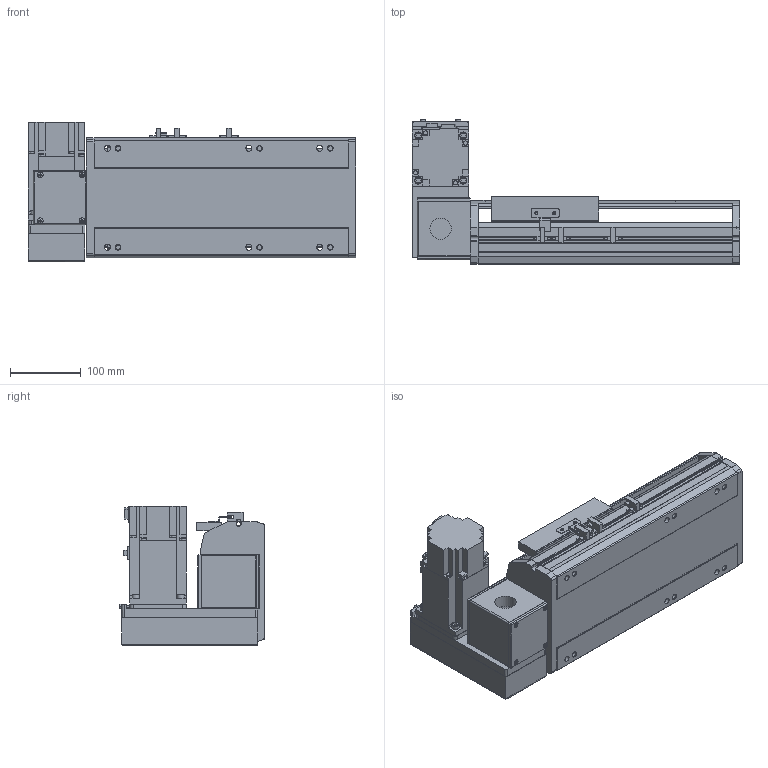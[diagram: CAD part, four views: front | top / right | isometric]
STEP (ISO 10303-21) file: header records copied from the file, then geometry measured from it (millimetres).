
FILE_DESCRIPTION(/* description */ ('STEP AP214'),/* implementation_level */ '2;1');
FILE_NAME(/* name */ 'PBS170-P40-S100-LU-T75-C1-N(0)',/* time_stamp */ '2022-06-07T10:13:47+02:00',/* author */ ('License CC BY-ND 4.0'),/* organization */ ('CADENAS'),/* preprocessor_version */ 'ST-DEVELOPER v18.102',/* originating_system */ 'PARTsolutions',/* authorisation */ ' ');
FILE_SCHEMA (('AUTOMOTIVE_DESIGN {1 0 10303 214 3 1 1}'));
Length unit declared in the file: millimetre
Products named in the file (7): PBS170-P40-S100-LU-T75-C1-N(0); PBS170_sensor; PBS170_plant; PBS170_sliser; T75-p1; PBS170T-LU_motors; PBS170-S100()_body
Assembly tree (8 placements, depth 2):
  PBS170-P40-S100-LU-T75-C1-N(0)
    PBS170_sensor  x3
    PBS170_plant
    PBS170_sliser
    T75-p1
    PBS170T-LU_motors
    PBS170-S100()_body
Bounding box: 463 x 206 x 197.3 mm (x, y, z)
Volume: 4576573.4 mm3; surface area: 666894.8 mm2
Topology: 8 solids, 8 shells, 1002 faces, 2675 edges, 1744 vertices
Faces by surface type: plane 657, cylinder 299, cone 36, sphere 8, torus 2
Full cylindrical faces by diameter (mm): 3.242 x4, 4 x2, 4.4 x4, 4.5 x6, 4.917 x4, 6 x9, 6.647 x14, 7 x2, 7.5 x4, 8 x8, 8.5 x6, 10 x4, 10.5 x6, 11 x2, 30 x2, 40 x1, 70 x1
Entity records: 28828 total; most frequent: CARTESIAN_POINT 5153, DIRECTION 4950, ORIENTED_EDGE 4728, EDGE_CURVE 2364, AXIS2_PLACEMENT_3D 1687, VERTEX_POINT 1610, LINE 1576, VECTOR 1576
